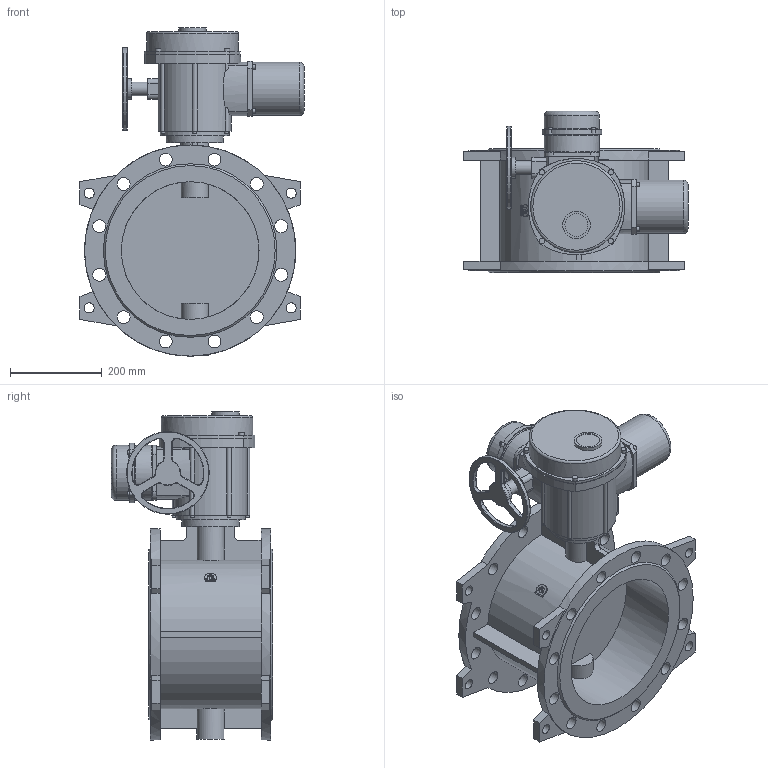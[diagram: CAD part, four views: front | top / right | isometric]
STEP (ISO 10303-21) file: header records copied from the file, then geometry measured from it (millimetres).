
FILE_DESCRIPTION(('STEP AP203'), '1');
FILE_NAME('青蜮铕 023F.Z DN300 PN16_菹_QT.Z060-120', '', ('UNSPECIFIED'), ('UNSPECIFIED'), 'ASCON STEP Converter 1.6', 'ASCON Math Kernel', '');
FILE_SCHEMA(('CONFIG_CONTROL_DESIGN'));
Length unit declared in the file: millimetre
Bounding box: 488 x 351 x 715 mm (x, y, z)
Volume: 19738984.4 mm3; surface area: 1630845.2 mm2
Topology: 1 solids, 1 shells, 391 faces, 983 edges, 618 vertices
Faces by surface type: cylinder 175, plane 143, torus 47, cone 18, bspline 8
Full cylindrical faces by diameter (mm): 8 x10, 8.376 x4, 10 x4, 10.106 x4, 12 x8, 12.386 x1, 22 x8, 28 x24, 30 x1, 45 x1, 50 x1, 60 x2, 116 x1, 120 x2, 125 x1, 150 x1, 180 x1, 200 x1, 300 x2, 460 x2
Entity records: 17432 total; most frequent: CARTESIAN_POINT 5005, DIRECTION 2037, ORIENTED_EDGE 1722, EDGE_CURVE 861, AXIS2_PLACEMENT_3D 849, VERTEX_POINT 609, EDGE_LOOP 601, CIRCLE 465
